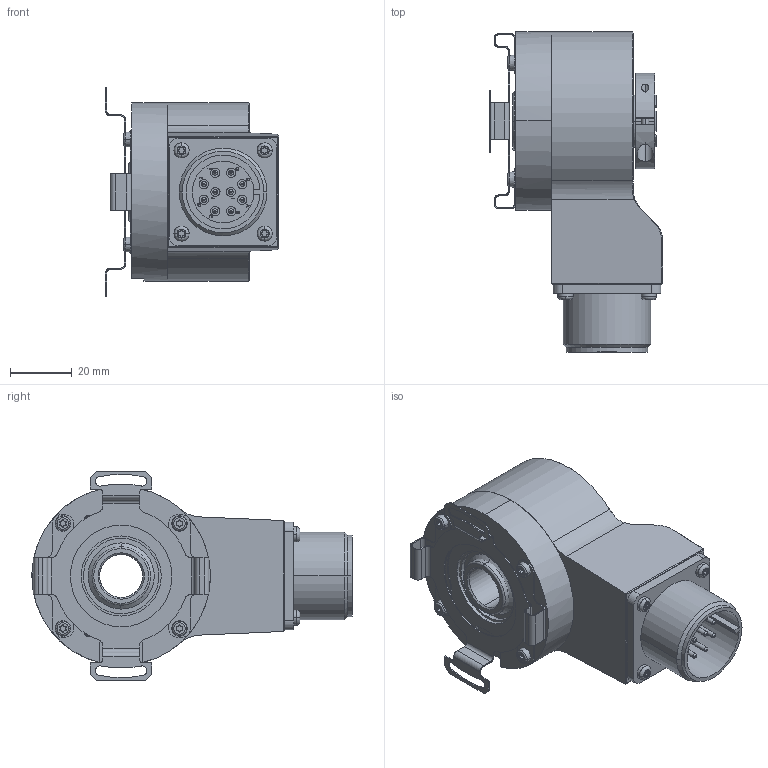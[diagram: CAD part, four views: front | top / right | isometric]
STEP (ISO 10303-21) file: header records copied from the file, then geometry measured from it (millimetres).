
FILE_DESCRIPTION (( 'STEP AP203' ), '1' );
FILE_NAME ('K58I.OXX.XXXXX.XC12514.6XRCE.step', '2025-12-08T11:27:20', ( '' ), ( '' ), 'SwSTEP 2.0', 'SolidWorks 2021', '' );
FILE_SCHEMA (( 'CONFIG_CONTROL_DESIGN' ));
Length unit declared in the file: millimetre
Products named in the file (1): K58I.OXX.XXXXX.XC12514.6XRCE
Bounding box: 56.19 x 104 x 68 mm (x, y, z)
Volume: 140285.4 mm3; surface area: 43537.9 mm2
Topology: 7 solids, 7 shells, 801 faces, 1988 edges, 1252 vertices
Faces by surface type: cylinder 338, plane 319, cone 55, bspline 55, torus 34
Entity records: 27916 total; most frequent: CARTESIAN_POINT 8624, DIRECTION 4120, ORIENTED_EDGE 3948, EDGE_CURVE 1974, AXIS2_PLACEMENT_3D 1547, VERTEX_POINT 1252, LINE 1026, VECTOR 1026
